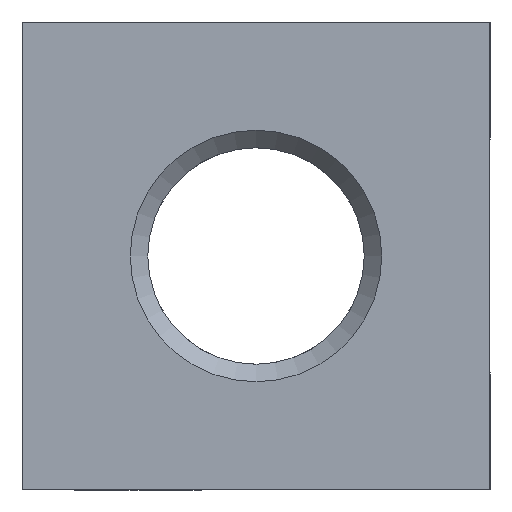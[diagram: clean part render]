
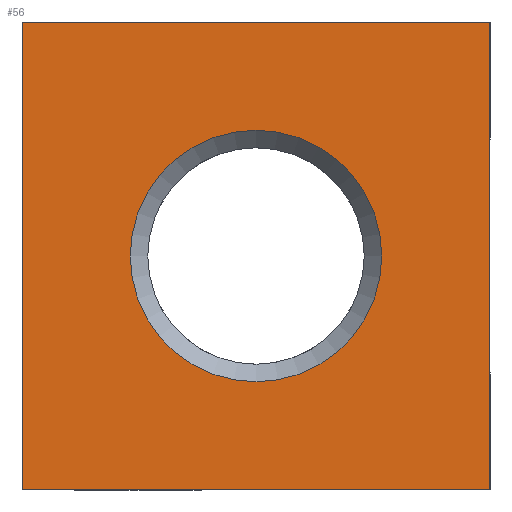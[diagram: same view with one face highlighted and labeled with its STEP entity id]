
A CAD part, left-side view. The second image highlights one B-rep face of the part: STEP entity #56.
In plain terms, the highlighted planar face has unit normal (-1, 0, 0).
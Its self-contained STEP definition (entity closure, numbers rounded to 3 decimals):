
#56 = ADVANCED_FACE( '', ( #95, #96 ), #97, .T. );
#95 = FACE_BOUND( '', #150, .T. );
#96 = FACE_OUTER_BOUND( '', #151, .T. );
#97 = PLANE( '', #152 );
#150 = EDGE_LOOP( '', ( #248 ) );
#151 = EDGE_LOOP( '', ( #249, #250, #251, #252 ) );
#152 = AXIS2_PLACEMENT_3D( '', #253, #254, #255 );
#248 = ORIENTED_EDGE( '', *, *, #341, .T. );
#249 = ORIENTED_EDGE( '', *, *, #357, .F. );
#250 = ORIENTED_EDGE( '', *, *, #347, .F. );
#251 = ORIENTED_EDGE( '', *, *, #366, .F. );
#252 = ORIENTED_EDGE( '', *, *, #343, .F. );
#253 = CARTESIAN_POINT( '', ( 0., -20., 20. ) );
#254 = DIRECTION( '', ( -1., 0., 0. ) );
#255 = DIRECTION( '', ( 0., -1., 0. ) );
#341 = EDGE_CURVE( '', #395, #395, #396, .F. );
#343 = EDGE_CURVE( '', #399, #400, #401, .T. );
#347 = EDGE_CURVE( '', #407, #408, #409, .T. );
#357 = EDGE_CURVE( '', #408, #399, #427, .T. );
#366 = EDGE_CURVE( '', #400, #407, #441, .T. );
#395 = VERTEX_POINT( '', #475 );
#396 = CIRCLE( '', #476, 10.75 );
#399 = VERTEX_POINT( '', #479 );
#400 = VERTEX_POINT( '', #480 );
#401 = LINE( '', #481, #482 );
#407 = VERTEX_POINT( '', #491 );
#408 = VERTEX_POINT( '', #492 );
#409 = LINE( '', #493, #494 );
#427 = LINE( '', #519, #520 );
#441 = LINE( '', #566, #567 );
#475 = CARTESIAN_POINT( '', ( 0., -10.75, 0. ) );
#476 = AXIS2_PLACEMENT_3D( '', #647, #648, #649 );
#479 = CARTESIAN_POINT( '', ( 0., -20., -20. ) );
#480 = CARTESIAN_POINT( '', ( 0., 20., -20. ) );
#481 = CARTESIAN_POINT( '', ( 0., -20., -20. ) );
#482 = VECTOR( '', #653, 1000. );
#491 = CARTESIAN_POINT( '', ( 0., 20., 20. ) );
#492 = CARTESIAN_POINT( '', ( 0., -20., 20. ) );
#493 = CARTESIAN_POINT( '', ( 0., 20., 20. ) );
#494 = VECTOR( '', #657, 1000. );
#519 = CARTESIAN_POINT( '', ( 0., -20., 20. ) );
#520 = VECTOR( '', #671, 1000. );
#566 = CARTESIAN_POINT( '', ( 0., 20., -20. ) );
#567 = VECTOR( '', #683, 1000. );
#647 = CARTESIAN_POINT( '', ( 0., 0., 0. ) );
#648 = DIRECTION( '', ( -1., 0., 0. ) );
#649 = DIRECTION( '', ( 0., -1., 0. ) );
#653 = DIRECTION( '', ( 0., 1., 0. ) );
#657 = DIRECTION( '', ( 0., -1., 0. ) );
#671 = DIRECTION( '', ( 0., 0., -1. ) );
#683 = DIRECTION( '', ( 0., 0., 1. ) );
